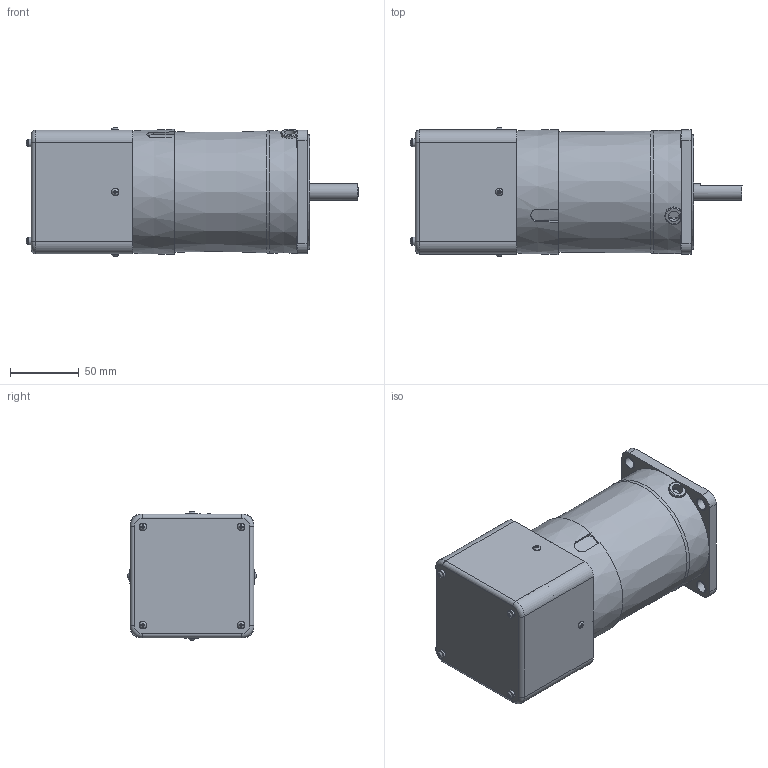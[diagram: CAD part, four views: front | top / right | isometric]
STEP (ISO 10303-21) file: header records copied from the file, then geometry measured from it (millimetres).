
FILE_DESCRIPTION(/* description */ (''),/* implementation_level */ '2;1');
FILE_NAME(/* name */ 'Y:\제품연구개발\3. 도면\3. 고객배포용\3D_홈페이지용\01-1 Standard AC SG Series\05-3 SPEED CONTROL ELECTROMAGNETIC BRAKE MOTOR(ES)\SG9R60_-ES12\SG9R60D-ES.stp',/* time_stamp */ '2023-12-01T09:30:34+09:00',/* author */ ('shyi1037'),/* organization */ (''),/* preprocessor_version */ 'ST-DEVELOPER v18.1',/* originating_system */ 'Autodesk Inventor 2022',/* authorisation */ '');
FILE_SCHEMA (('AUTOMOTIVE_DESIGN { 1 0 10303 214 3 1 1 }'));
Length unit declared in the file: millimetre
Products named in the file (1): S9R60D-ES
Bounding box: 241.25 x 93.89 x 93.89 mm (x, y, z)
Volume: 1129143.8 mm3; surface area: 113262 mm2
Topology: 1 solids, 7 shells, 292 faces, 719 edges, 472 vertices
Faces by surface type: plane 179, cylinder 72, torus 26, bspline 8, cone 7
Full cylindrical faces by diameter (mm): 3 x8, 4.5 x4, 5.6 x12, 8 x1, 8.5 x4, 9.5 x4, 10 x1, 12 x1, 40 x1, 83 x1, 86 x1
Entity records: 9396 total; most frequent: CARTESIAN_POINT 2389, ORIENTED_EDGE 1438, DIRECTION 1393, EDGE_CURVE 719, AXIS2_PLACEMENT_3D 510, VERTEX_POINT 472, LINE 373, VECTOR 373
